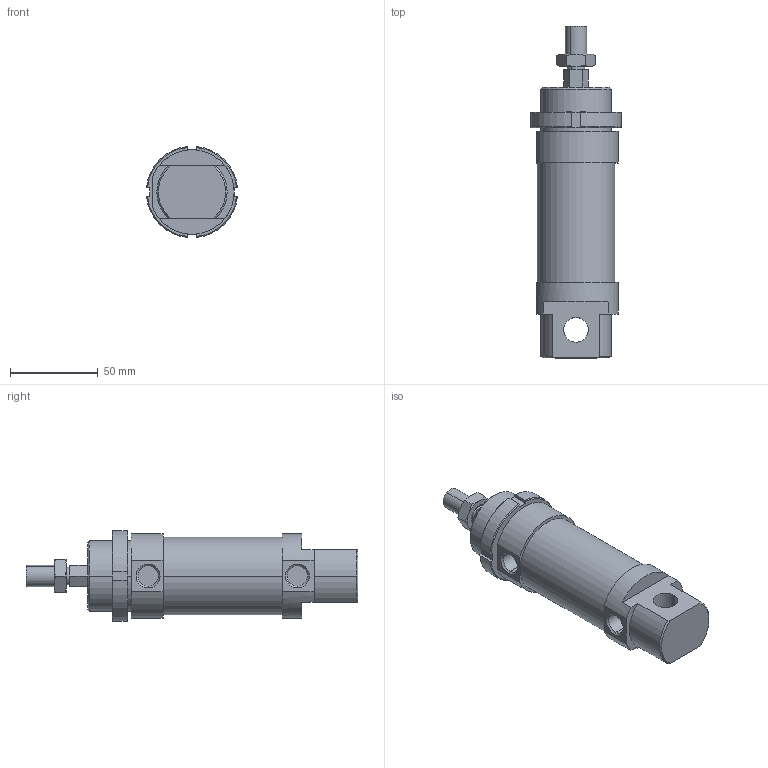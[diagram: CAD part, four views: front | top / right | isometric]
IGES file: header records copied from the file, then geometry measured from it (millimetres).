
Global section: file name: No Iges File Name specified; native system: AutoDesk Inventor R6.0; preprocessor: AutoDesk Inventor Iges Exporter R6.0; author: No Author specified; organization: No Organization specified; date: 20030405.074403; units: millimetre
Bounding box: 51.76 x 189 x 51.76 mm (x, y, z)
Volume: 229048 mm3; surface area: 39520 mm2
Topology: 4 solids, 4 shells, 126 faces, 298 edges, 188 vertices
Faces by surface type: plane 52, cone 30, cylinder 20, bspline 20, revolution 4
